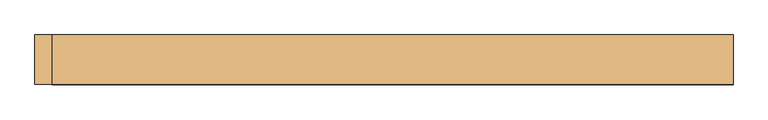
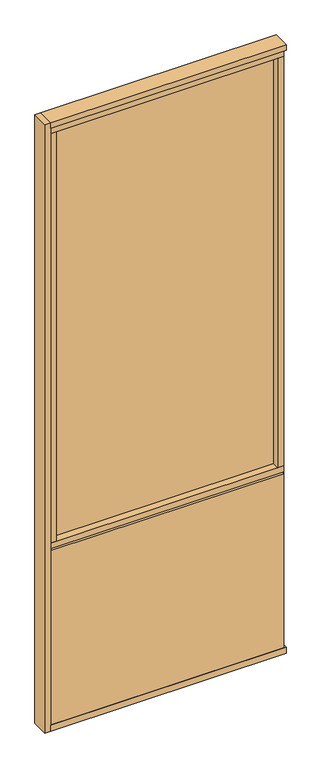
"""IFC4 building model written with IfcOpenShell, lengths in millimetres: door geometry, Mobiliário_Mobiliário de Escritório_Painel Misto Vidro Simples - AST E ASL (Inicial e Final)_Marelli : AST - Temperado."""

from ifc_helpers import new_model, si_unit, frame, origin, origin_with_axes, place, context, project, spatial, polyline, outline, extrude, source, transform, mapped, element, save


def door_61279686(model_context):
    return source(origin(), model_context, "Body", "SweptSolid", [
        extrude(outline(polyline([(600.0, 42.5), (600.0, -42.5), (-570.0, -42.5), (-570.0, 42.5), (600.0, 42.5)])), origin_with_axes(), (0.0, 0.0, 1.0), 30.0),
        extrude(outline(polyline([(590.0, 39.5), (590.0, 21.5), (-570.0, 21.5), (-570.0, 39.5), (590.0, 39.5)])), frame((0.0, 0.0, 30.0), z_axis=(0.0, 0.0, 1.0), x_axis=(1.0, 0.0, 0.0)), (0.0, 0.0, 1.0), 916.5),
        extrude(outline(polyline([(590.0, 21.5), (590.0, -21.5), (-570.0, -21.5), (-570.0, 21.5), (590.0, 21.5)])), frame((0.0, 0.0, 913.5), z_axis=(0.0, 0.0, 1.0), x_axis=(1.0, 0.0, 0.0)), (0.0, 0.0, 1.0), 43.0),
        extrude(outline(polyline([(590.0, -39.5), (-570.0, -39.5), (-570.0, -21.5), (590.0, -21.5), (590.0, -39.5)])), frame((0.0, 0.0, 30.0), z_axis=(0.0, 0.0, 1.0), x_axis=(1.0, 0.0, 0.0)), (0.0, 0.0, 1.0), 916.5),
        extrude(outline(polyline([(590.0, 39.5), (590.0, -39.5), (-570.0, -39.5), (-570.0, 39.5), (590.0, 39.5)])), frame((0.0, 0.0, 956.5), z_axis=(0.0, 0.0, 1.0), x_axis=(1.0, 0.0, 0.0)), (0.0, 0.0, 1.0), 30.0),
        extrude(outline(polyline([(600.0, 42.5), (600.0, -42.5), (-570.0, -42.5), (-570.0, 42.5), (600.0, 42.5)])), frame((0.0, 0.0, 3170.0), z_axis=(0.0, 0.0, 1.0), x_axis=(1.0, 0.0, 0.0)), (0.0, 0.0, 1.0), 30.0),
        extrude(outline(polyline([(590.0, 39.5), (590.0, -39.5), (-570.0, -39.5), (-570.0, 39.5), (590.0, 39.5)])), frame((0.0, 0.0, 3140.0), z_axis=(0.0, 0.0, 1.0), x_axis=(1.0, 0.0, 0.0)), (0.0, 0.0, 1.0), 30.0),
        extrude(outline(polyline([(-600.0, -42.5), (-600.0, 42.5), (-570.0, 42.5), (-570.0, -42.5), (-600.0, -42.5)])), origin_with_axes(), (0.0, 0.0, 1.0), 3200.0),
        extrude(outline(polyline([(600.0, -21.5), (590.0, -21.5), (590.0, 21.5), (600.0, 21.5), (600.0, -21.5)])), frame((0.0, 0.0, 30.0), z_axis=(0.0, 0.0, 1.0), x_axis=(1.0, 0.0, 0.0)), (0.0, 0.0, 1.0), 3140.0),
        extrude(outline(polyline([(-540.0, 39.5), (-540.0, -39.5), (-570.0, -39.5), (-570.0, 39.5), (-540.0, 39.5)])), frame((0.0, 0.0, 986.5), z_axis=(0.0, 0.0, 1.0), x_axis=(1.0, 0.0, 0.0)), (0.0, 0.0, 1.0), 2153.5),
        extrude(outline(polyline([(560.0, 39.5), (590.0, 39.5), (590.0, -39.5), (560.0, -39.5), (560.0, 39.5)])), frame((0.0, 0.0, 986.5), z_axis=(0.0, 0.0, 1.0), x_axis=(1.0, 0.0, 0.0)), (0.0, 0.0, 1.0), 2153.5),
        extrude(outline(polyline([(560.0, 3.0), (560.0, -3.0), (-540.0, -3.0), (-540.0, 3.0), (560.0, 3.0)])), frame((0.0, 0.0, 986.5), z_axis=(0.0, 0.0, 1.0), x_axis=(1.0, 0.0, 0.0)), (0.0, 0.0, 1.0), 2153.5),
    ])


if __name__ == "__main__":
    model = new_model("IFC4")
    model_context = context("Model", 3, world=origin())
    ifc_project = project(units=[si_unit("LENGTHUNIT", "METRE", prefix="MILLI")], contexts=[model_context])
    site = spatial("IfcSite", under=ifc_project)
    building = spatial("IfcBuilding", under=site)
    placement = place(None, origin())
    door_shape = door_61279686(model_context)
    element("IfcDoor", 1, ObjectType="Mobiliário_Mobiliário de Escritório_Painel Misto Vidro Simples - AST E ASL (Inicial e Final)_Marelli : AST - Temperado", at=placement, inside=building, context=model_context, shape_type="MappedRepresentation", body=[
        mapped(door_shape, transform((0.0, 0.0, 0.0), x_axis=(1.0, 0.0, 0.0), y_axis=(0.0, 1.0, 0.0), z_axis=(0.0, 0.0, 1.0))),
    ])
    save(model, "model.ifc")
